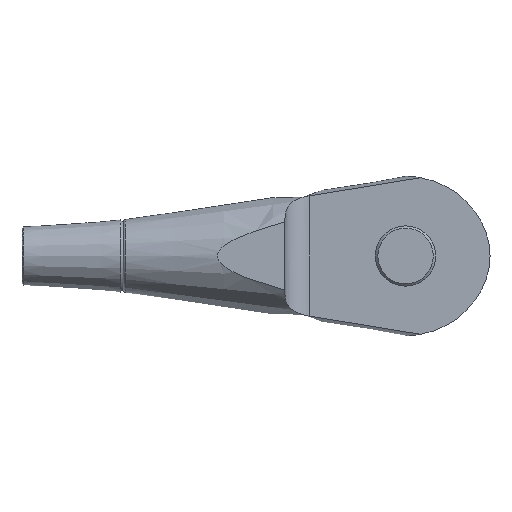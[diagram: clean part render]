
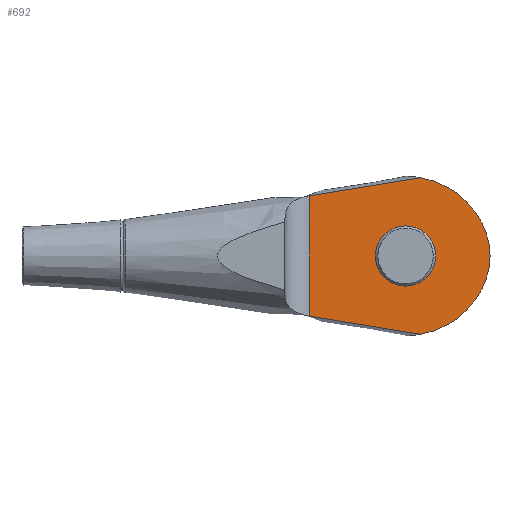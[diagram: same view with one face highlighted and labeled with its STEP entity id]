
A CAD part, front view. The second image highlights one B-rep face of the part: STEP entity #692.
In plain terms, the highlighted planar face has unit normal (0, -1, 0).
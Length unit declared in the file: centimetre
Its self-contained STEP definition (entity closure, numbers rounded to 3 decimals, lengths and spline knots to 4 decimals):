
#20=LINE('',#1209,#46);
#46=VECTOR('',#896,4.984);
#77=(
BOUNDED_CURVE()
B_SPLINE_CURVE(2,(#1070,#1071,#1072),.UNSPECIFIED.,.F.,.F.)
B_SPLINE_CURVE_WITH_KNOTS((3,3),(0.,5.0289),.UNSPECIFIED.)
CURVE()
GEOMETRIC_REPRESENTATION_ITEM()
RATIONAL_B_SPLINE_CURVE((1.,1.012,1.008))
REPRESENTATION_ITEM('')
);
#81=(
BOUNDED_CURVE()
B_SPLINE_CURVE(2,(#1164,#1165,#1166),.UNSPECIFIED.,.F.,.F.)
B_SPLINE_CURVE_WITH_KNOTS((3,3),(2.5689,7.5978),
 .UNSPECIFIED.)
CURVE()
GEOMETRIC_REPRESENTATION_ITEM()
RATIONAL_B_SPLINE_CURVE((1.008,1.012,1.))
REPRESENTATION_ITEM('')
);
#103=PLANE('',#765);
#130=FACE_BOUND('',#224,.T.);
#165=FACE_OUTER_BOUND('',#223,.T.);
#223=EDGE_LOOP('',(#512,#513,#514,#515,#516,#517));
#224=EDGE_LOOP('',(#518));
#289=CIRCLE('',#754,1.1);
#291=CIRCLE('',#757,3.566);
#293=CIRCLE('',#760,3.566);
#295=CIRCLE('',#763,3.);
#327=VERTEX_POINT('',#1054);
#328=VERTEX_POINT('',#1069);
#339=VERTEX_POINT('',#1152);
#340=VERTEX_POINT('',#1163);
#342=VERTEX_POINT('',#1189);
#344=VERTEX_POINT('',#1194);
#346=VERTEX_POINT('',#1200);
#390=EDGE_CURVE('',#327,#328,#77,.T.);
#402=EDGE_CURVE('',#339,#340,#81,.T.);
#407=EDGE_CURVE('',#342,#342,#289,.T.);
#409=EDGE_CURVE('',#339,#344,#291,.T.);
#412=EDGE_CURVE('',#346,#328,#293,.T.);
#415=EDGE_CURVE('',#344,#346,#295,.T.);
#417=EDGE_CURVE('',#327,#340,#20,.T.);
#512=ORIENTED_EDGE('',*,*,#409,.T.);
#513=ORIENTED_EDGE('',*,*,#415,.T.);
#514=ORIENTED_EDGE('',*,*,#412,.T.);
#515=ORIENTED_EDGE('',*,*,#390,.F.);
#516=ORIENTED_EDGE('',*,*,#417,.T.);
#517=ORIENTED_EDGE('',*,*,#402,.F.);
#518=ORIENTED_EDGE('',*,*,#407,.T.);
#692=ADVANCED_FACE('',(#165,#130),#103,.F.);
#754=AXIS2_PLACEMENT_3D('',#1190,#870,#871);
#757=AXIS2_PLACEMENT_3D('',#1195,#876,#877);
#760=AXIS2_PLACEMENT_3D('',#1201,#883,#884);
#763=AXIS2_PLACEMENT_3D('',#1206,#890,#891);
#765=AXIS2_PLACEMENT_3D('',#1208,#894,#895);
#870=DIRECTION('center_axis',(0.,1.,0.));
#871=DIRECTION('ref_axis',(-1.,0.,0.));
#876=DIRECTION('center_axis',(0.,-1.,0.));
#877=DIRECTION('ref_axis',(0.,0.,
1.));
#883=DIRECTION('center_axis',(0.,-1.,0.));
#884=DIRECTION('ref_axis',(-0.883,0.,-0.469));
#890=DIRECTION('center_axis',(0.,-1.,0.));
#891=DIRECTION('ref_axis',(-0.883,0.,0.469));
#894=DIRECTION('center_axis',(0.,1.,0.));
#895=DIRECTION('ref_axis',(-1.,0.,0.));
#896=DIRECTION('',(0.,0.,-1.));
#1054=CARTESIAN_POINT('',(-4.,-1.,2.492));
#1069=CARTESIAN_POINT('',(0.6224,-1.,3.2461));
#1070=CARTESIAN_POINT('Ctrl Pts',(-4.,-1.,2.492));
#1071=CARTESIAN_POINT('Ctrl Pts',(-1.9925,-1.,2.8249));
#1072=CARTESIAN_POINT('Ctrl Pts',(0.6224,-1.,3.2461));
#1152=CARTESIAN_POINT('',(0.6224,-1.,-3.2461));
#1163=CARTESIAN_POINT('',(-4.,-1.,-2.492));
#1164=CARTESIAN_POINT('Ctrl Pts',(0.6224,-1.,-3.2461));
#1165=CARTESIAN_POINT('Ctrl Pts',(-1.9925,-1.,-2.8249));
#1166=CARTESIAN_POINT('Ctrl Pts',(-4.,-1.,-2.492));
#1189=CARTESIAN_POINT('',(1.1,-1.,0.));
#1190=CARTESIAN_POINT('Origin',(0.,-1.,0.));
#1194=CARTESIAN_POINT('',(3.1504,-1.,-1.4055));
#1195=CARTESIAN_POINT('Origin',(0.,-1.,0.2652));
#1200=CARTESIAN_POINT('',(3.1504,-1.,1.4055));
#1201=CARTESIAN_POINT('Origin',(0.,-1.,-0.2652));
#1206=CARTESIAN_POINT('Origin',(0.5,-1.,0.));
#1208=CARTESIAN_POINT('Origin',(3.5,-1.,0.));
#1209=CARTESIAN_POINT('',(-4.,-1.,0.));
